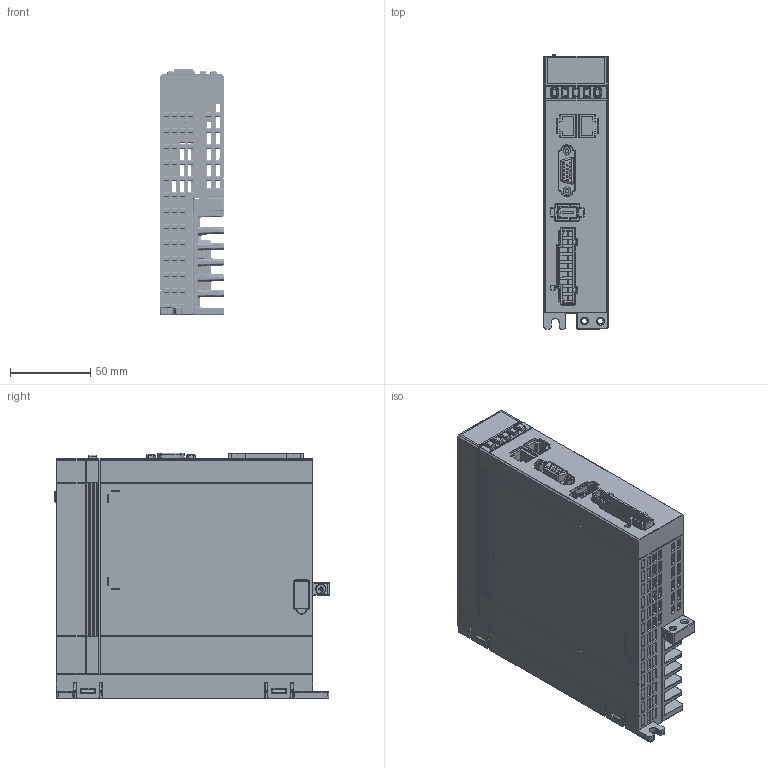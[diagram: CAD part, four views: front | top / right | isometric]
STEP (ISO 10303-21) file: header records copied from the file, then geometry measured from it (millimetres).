
FILE_DESCRIPTION((''),'2;1');
FILE_NAME('000-AS700-SIZE-A_ASM','2022-07-25T16:09:40',('panjiazhong'),(''),'CREO PARAMETRIC BY PTC INC, 2020354','CREO PARAMETRIC BY PTC INC, 2020354','');
FILE_SCHEMA(('CONFIG_CONTROL_DESIGN','SHAPE_APPEARANCE_LAYERS_GROUPS'));
Products named in the file (26): C30190041A1; C02010298A0-FINAL; CON2X16-RJ45-2_54-28_3-17_2-D0_; CON2X2-3_5-3_5-8_4X14-D1_4; CON9-197-47X18_1-D1_4; USB6-2_0-18_1X8_4-D0_8-BA-A; USB16-TYPEC-0_5MM-8_94X7_85-SMD; DB15-90-100-30_8X21_9-D1; 00-ASM-SIFU-QUDONG_ASM; C02010299A0-AS700-KD1_A0-12-14; SR0402; SC0402; SC0805; SOP16-50-150; SOT23; DIS13-100-300-23X10-D0_8-A; MARK-A; TP60A; SSW4-118-4_5X4_5-SMD; C02010299A0-AS700-KD1_A0-12-14_ASM; C30200041A1; C31030027A1; C30360018A0; C31030028A1; C31030029A1; 000-AS700-SIZE-A_ASM
Assembly tree (94 placements, depth 3):
  000-AS700-SIZE-A_ASM
    C30190041A1
    00-ASM-SIFU-QUDONG_ASM
      C02010298A0-FINAL
      CON2X16-RJ45-2_54-28_3-17_2-D0_
      CON2X2-3_5-3_5-8_4X14-D1_4
      CON9-197-47X18_1-D1_4
      USB6-2_0-18_1X8_4-D0_8-BA-A
      USB16-TYPEC-0_5MM-8_94X7_85-SMD
      DB15-90-100-30_8X21_9-D1
    C02010299A0-AS700-KD1_A0-12-14_ASM
      C02010299A0-AS700-KD1_A0-12-14
      SR0402  x33
      SC0402  x17
      SC0805
      SOP16-50-150  x3
      SOT23  x6
      DIS13-100-300-23X10-D0_8-A
      MARK-A  x3
      TP60A  x9
      SSW4-118-4_5X4_5-SMD  x5
    C30200041A1
    C31030027A1
    C30360018A0
    C31030028A1
    C31030029A1
Bounding box: 40 x 171.32 x 153.35 mm (x, y, z)
Volume: 256095.2 mm3; surface area: 215953.7 mm2
Topology: 92 solids, 93 shells, 7479 faces, 18462 edges, 11504 vertices
Faces by surface type: plane 3831, cylinder 2365, bspline 592, sphere 362, cone 164, torus 123, extrusion 42
Entity records: 244950 total; most frequent: CARTESIAN_POINT 65217, ORIENTED_EDGE 26562, DIRECTION 24142, PRESENTATION_STYLE_ASSIGNMENT 13830, STYLED_ITEM 13348, EDGE_CURVE 13281, CURVE_STYLE 10987, VECTOR 8886
